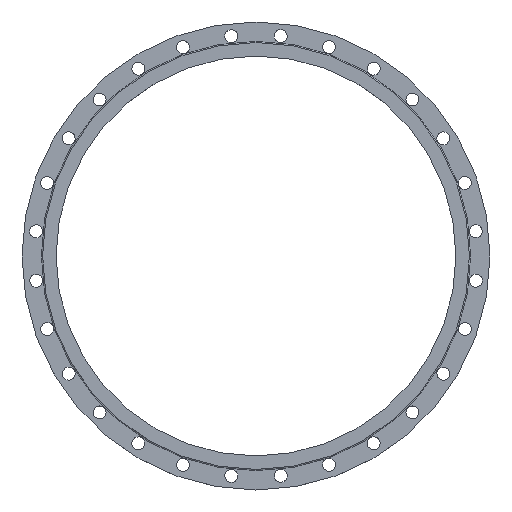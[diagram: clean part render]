
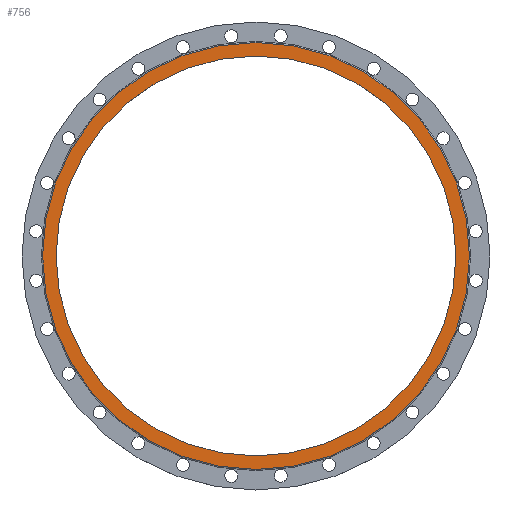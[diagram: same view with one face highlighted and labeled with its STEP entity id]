
A CAD part, top view. The second image highlights one B-rep face of the part: STEP entity #756.
In plain terms, the highlighted planar face has unit normal (0, 0, 1).
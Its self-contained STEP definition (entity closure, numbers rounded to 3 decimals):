
#134=FACE_BOUND('',#263,.T.);
#165=PLANE('',#878);
#199=FACE_OUTER_BOUND('',#262,.T.);
#262=EDGE_LOOP('',(#688,#689));
#263=EDGE_LOOP('',(#690,#691));
#296=CIRCLE('',#781,545.);
#297=CIRCLE('',#782,545.);
#357=CIRCLE('',#872,510.5);
#358=CIRCLE('',#873,510.5);
#364=VERTEX_POINT('',#1121);
#365=VERTEX_POINT('',#1123);
#424=VERTEX_POINT('',#1301);
#425=VERTEX_POINT('',#1302);
#431=EDGE_CURVE('',#365,#364,#296,.T.);
#432=EDGE_CURVE('',#364,#365,#297,.T.);
#520=EDGE_CURVE('',#424,#425,#357,.T.);
#521=EDGE_CURVE('',#425,#424,#358,.T.);
#688=ORIENTED_EDGE('',*,*,#431,.T.);
#689=ORIENTED_EDGE('',*,*,#432,.T.);
#690=ORIENTED_EDGE('',*,*,#520,.T.);
#691=ORIENTED_EDGE('',*,*,#521,.T.);
#756=ADVANCED_FACE('',(#199,#134),#165,.T.);
#781=AXIS2_PLACEMENT_3D('',#1124,#888,#889);
#782=AXIS2_PLACEMENT_3D('',#1125,#890,#891);
#872=AXIS2_PLACEMENT_3D('',#1303,#1098,#1099);
#873=AXIS2_PLACEMENT_3D('',#1304,#1100,#1101);
#878=AXIS2_PLACEMENT_3D('',#1314,#1112,#1113);
#888=DIRECTION('center_axis',(0.,0.,1.));
#889=DIRECTION('ref_axis',(-1.,0.,0.));
#890=DIRECTION('center_axis',(0.,0.,1.));
#891=DIRECTION('ref_axis',(-1.,0.,0.));
#1098=DIRECTION('center_axis',(0.,0.,-1.));
#1099=DIRECTION('ref_axis',(1.,0.,0.));
#1100=DIRECTION('center_axis',(0.,0.,-1.));
#1101=DIRECTION('ref_axis',(1.,0.,0.));
#1112=DIRECTION('center_axis',(0.,0.,1.));
#1113=DIRECTION('ref_axis',(1.,0.,0.));
#1121=CARTESIAN_POINT('',(-545.,0.,32.));
#1123=CARTESIAN_POINT('',(545.,0.,32.));
#1124=CARTESIAN_POINT('Origin',(0.,0.,32.));
#1125=CARTESIAN_POINT('Origin',(0.,0.,32.));
#1301=CARTESIAN_POINT('',(510.5,0.,32.));
#1302=CARTESIAN_POINT('',(-510.5,0.,32.));
#1303=CARTESIAN_POINT('Origin',(0.,0.,32.));
#1304=CARTESIAN_POINT('Origin',(0.,0.,32.));
#1314=CARTESIAN_POINT('Origin',(0.,0.,32.));
